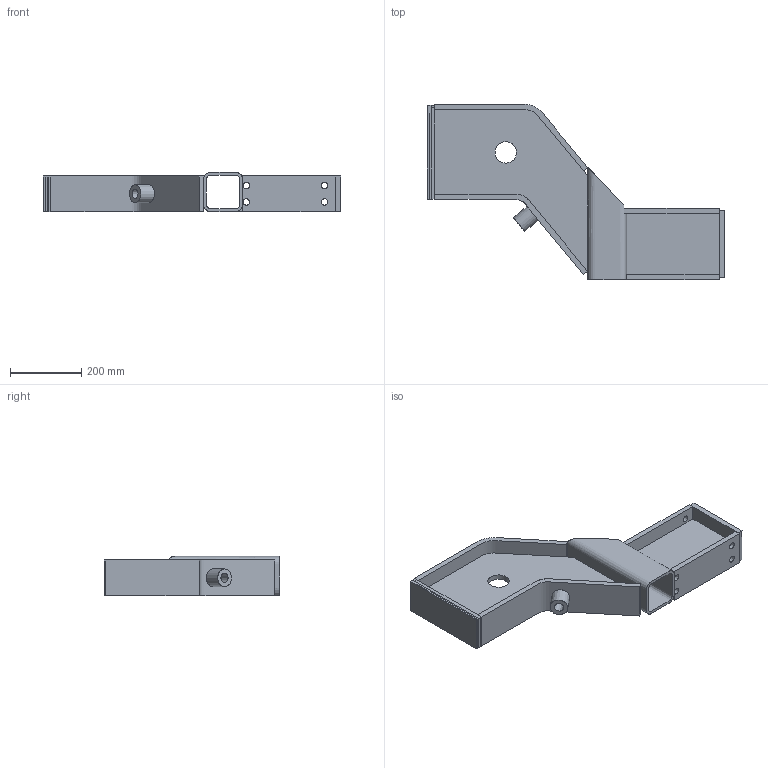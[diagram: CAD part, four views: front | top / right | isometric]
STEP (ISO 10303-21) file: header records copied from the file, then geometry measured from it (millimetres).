
FILE_DESCRIPTION(('HOOPS Exchange Step'),'2;1');
FILE_NAME('\\meies03a\fasol\一般_共有\茶谷\Geminiキャプチャ\Gemini動画_インポートファイル\10_Import and Combine Different CAD files\Part.step','2023-03-22T15:53:14+09:00',('JG09537'),('Unknown organisation'),'HOOPS Exchange 2022.1','HOOPS Exchange','Unknown authorisation');
FILE_SCHEMA( ('AP242_MANAGED_MODEL_BASED_3D_ENGINEERING_MIM_LF {1 0 10303 442 1 1 4 }') );
Length unit declared in the file: millimetre
Products named in the file (3): GeoContainer; Part; ROOT
Assembly tree (2 placements, depth 3):
  ROOT
    Part
      GeoContainer
Bounding box: 835 x 492.82 x 110 mm (x, y, z)
Surface area: 1096668.6 mm2 (no closed solid volume)
Topology: 0 solids, 27 shells, 83 faces, 0 edges, 0 vertices
Faces by surface type: other 83
Entity records: 256 total; most frequent: TRIANGULATED_FACE 83, COORDINATES_LIST 27, TESSELLATED_SHELL 27, STYLED_ITEM 27, DIRECTION 12, CARTESIAN_POINT 6, AXIS2_PLACEMENT_3D 6, PRODUCT_DEFINITION_SHAPE 5
